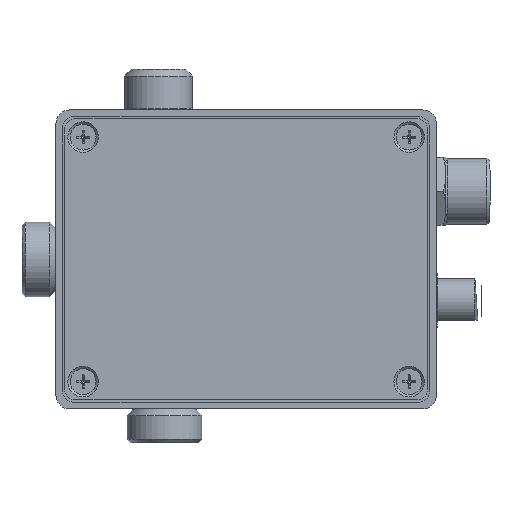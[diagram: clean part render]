
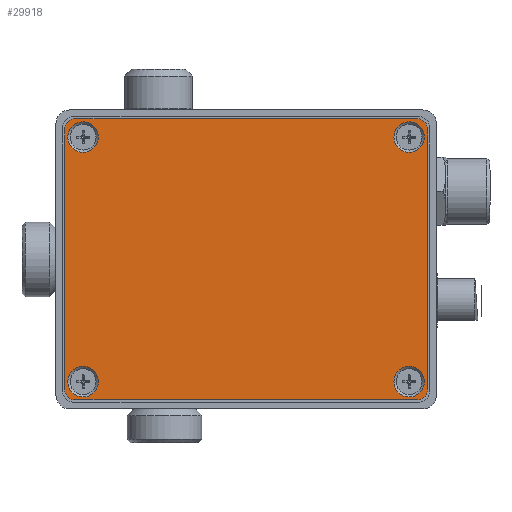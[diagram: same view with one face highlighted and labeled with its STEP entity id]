
A CAD part, front view. The second image highlights one B-rep face of the part: STEP entity #29918.
In plain terms, the highlighted planar face has unit normal (0, -1, 0).
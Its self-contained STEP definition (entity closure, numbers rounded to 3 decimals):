
#3628=LINE('',#41059,#6213);
#3632=LINE('',#41071,#6217);
#3636=LINE('',#41083,#6221);
#3640=LINE('',#41094,#6225);
#6213=VECTOR('',#33795,10.);
#6217=VECTOR('',#33807,10.);
#6221=VECTOR('',#33819,10.);
#6225=VECTOR('',#33831,10.);
#8670=FACE_BOUND('',#10567,.T.);
#8671=FACE_BOUND('',#10568,.T.);
#8672=FACE_BOUND('',#10569,.T.);
#8673=FACE_BOUND('',#10570,.T.);
#8929=FACE_OUTER_BOUND('',#10566,.T.);
#10566=EDGE_LOOP('',(#20673,#20674,#20675,#20676,#20677,#20678,#20679,#20680));
#10567=EDGE_LOOP('',(#20681,#20682));
#10568=EDGE_LOOP('',(#20683,#20684));
#10569=EDGE_LOOP('',(#20685,#20686));
#10570=EDGE_LOOP('',(#20687,#20688));
#12335=CIRCLE('',#31647,2.25);
#12336=CIRCLE('',#31648,2.25);
#12339=CIRCLE('',#31652,2.25);
#12340=CIRCLE('',#31653,2.25);
#12341=CIRCLE('',#31655,2.25);
#12342=CIRCLE('',#31656,2.25);
#12345=CIRCLE('',#31660,2.25);
#12346=CIRCLE('',#31661,2.25);
#12347=CIRCLE('',#31663,1.5);
#12349=CIRCLE('',#31667,1.5);
#12351=CIRCLE('',#31671,1.5);
#12353=CIRCLE('',#31675,1.5);
#13050=VERTEX_POINT('',#41017);
#13051=VERTEX_POINT('',#41018);
#13054=VERTEX_POINT('',#41027);
#13055=VERTEX_POINT('',#41028);
#13056=VERTEX_POINT('',#41033);
#13057=VERTEX_POINT('',#41034);
#13060=VERTEX_POINT('',#41043);
#13061=VERTEX_POINT('',#41044);
#13062=VERTEX_POINT('',#41049);
#13063=VERTEX_POINT('',#41050);
#13066=VERTEX_POINT('',#41058);
#13068=VERTEX_POINT('',#41064);
#13070=VERTEX_POINT('',#41070);
#13072=VERTEX_POINT('',#41076);
#13074=VERTEX_POINT('',#41082);
#13076=VERTEX_POINT('',#41088);
#16024=EDGE_CURVE('',#13050,#13051,#12335,.T.);
#16025=EDGE_CURVE('',#13051,#13050,#12336,.T.);
#16029=EDGE_CURVE('',#13054,#13055,#12339,.T.);
#16030=EDGE_CURVE('',#13055,#13054,#12340,.T.);
#16032=EDGE_CURVE('',#13056,#13057,#12341,.T.);
#16033=EDGE_CURVE('',#13057,#13056,#12342,.T.);
#16037=EDGE_CURVE('',#13060,#13061,#12345,.T.);
#16038=EDGE_CURVE('',#13061,#13060,#12346,.T.);
#16040=EDGE_CURVE('',#13062,#13063,#12347,.T.);
#16044=EDGE_CURVE('',#13063,#13066,#3628,.T.);
#16047=EDGE_CURVE('',#13066,#13068,#12349,.T.);
#16050=EDGE_CURVE('',#13068,#13070,#3632,.T.);
#16053=EDGE_CURVE('',#13070,#13072,#12351,.T.);
#16056=EDGE_CURVE('',#13072,#13074,#3636,.T.);
#16059=EDGE_CURVE('',#13074,#13076,#12353,.T.);
#16062=EDGE_CURVE('',#13076,#13062,#3640,.T.);
#20673=ORIENTED_EDGE('',*,*,#16062,.T.);
#20674=ORIENTED_EDGE('',*,*,#16040,.T.);
#20675=ORIENTED_EDGE('',*,*,#16044,.T.);
#20676=ORIENTED_EDGE('',*,*,#16047,.T.);
#20677=ORIENTED_EDGE('',*,*,#16050,.T.);
#20678=ORIENTED_EDGE('',*,*,#16053,.T.);
#20679=ORIENTED_EDGE('',*,*,#16056,.T.);
#20680=ORIENTED_EDGE('',*,*,#16059,.T.);
#20681=ORIENTED_EDGE('',*,*,#16024,.T.);
#20682=ORIENTED_EDGE('',*,*,#16025,.T.);
#20683=ORIENTED_EDGE('',*,*,#16029,.T.);
#20684=ORIENTED_EDGE('',*,*,#16030,.T.);
#20685=ORIENTED_EDGE('',*,*,#16032,.T.);
#20686=ORIENTED_EDGE('',*,*,#16033,.T.);
#20687=ORIENTED_EDGE('',*,*,#16037,.T.);
#20688=ORIENTED_EDGE('',*,*,#16038,.T.);
#28895=PLANE('',#31678);
#29918=ADVANCED_FACE('',(#8929,#8670,#8671,#8672,#8673),#28895,.T.);
#31647=AXIS2_PLACEMENT_3D('',#41019,#33751,#33752);
#31648=AXIS2_PLACEMENT_3D('',#41020,#33753,#33754);
#31652=AXIS2_PLACEMENT_3D('',#41029,#33762,#33763);
#31653=AXIS2_PLACEMENT_3D('',#41030,#33764,#33765);
#31655=AXIS2_PLACEMENT_3D('',#41035,#33769,#33770);
#31656=AXIS2_PLACEMENT_3D('',#41036,#33771,#33772);
#31660=AXIS2_PLACEMENT_3D('',#41045,#33780,#33781);
#31661=AXIS2_PLACEMENT_3D('',#41046,#33782,#33783);
#31663=AXIS2_PLACEMENT_3D('',#41051,#33787,#33788);
#31667=AXIS2_PLACEMENT_3D('',#41065,#33800,#33801);
#31671=AXIS2_PLACEMENT_3D('',#41077,#33812,#33813);
#31675=AXIS2_PLACEMENT_3D('',#41089,#33824,#33825);
#31678=AXIS2_PLACEMENT_3D('',#41096,#33833,#33834);
#33751=DIRECTION('center_axis',(0.,1.,0.));
#33752=DIRECTION('ref_axis',(0.,0.,
1.));
#33753=DIRECTION('center_axis',(0.,1.,0.));
#33754=DIRECTION('ref_axis',(0.,0.,
1.));
#33762=DIRECTION('center_axis',(0.,1.,0.));
#33763=DIRECTION('ref_axis',(0.,0.,
1.));
#33764=DIRECTION('center_axis',(0.,1.,0.));
#33765=DIRECTION('ref_axis',(0.,0.,
1.));
#33769=DIRECTION('center_axis',(0.,1.,0.));
#33770=DIRECTION('ref_axis',(0.,0.,
1.));
#33771=DIRECTION('center_axis',(0.,1.,0.));
#33772=DIRECTION('ref_axis',(0.,0.,
1.));
#33780=DIRECTION('center_axis',(0.,1.,0.));
#33781=DIRECTION('ref_axis',(0.,0.,
1.));
#33782=DIRECTION('center_axis',(0.,1.,0.));
#33783=DIRECTION('ref_axis',(0.,0.,
1.));
#33787=DIRECTION('center_axis',(0.,-1.,0.));
#33788=DIRECTION('ref_axis',(0.,0.,
-1.));
#33795=DIRECTION('',(-1.,0.,0.));
#33800=DIRECTION('center_axis',(0.,-1.,0.));
#33801=DIRECTION('ref_axis',(1.,0.,0.));
#33807=DIRECTION('',(0.,0.,-1.));
#33812=DIRECTION('center_axis',(0.,-1.,0.));
#33813=DIRECTION('ref_axis',(0.,0.,
1.));
#33819=DIRECTION('',(1.,0.,0.));
#33824=DIRECTION('center_axis',(0.,-1.,0.));
#33825=DIRECTION('ref_axis',(-1.,0.,0.));
#33831=DIRECTION('',(0.,0.,1.));
#33833=DIRECTION('center_axis',(0.,-1.,0.));
#33834=DIRECTION('ref_axis',(1.,0.,0.));
#41017=CARTESIAN_POINT('',(-11.163,-37.913,9.013));
#41018=CARTESIAN_POINT('',(-11.163,-37.913,4.513));
#41019=CARTESIAN_POINT('Origin',(-11.163,-37.913,6.763));
#41020=CARTESIAN_POINT('Origin',(-11.163,-37.913,6.763));
#41027=CARTESIAN_POINT('',(-11.163,-37.913,45.013));
#41028=CARTESIAN_POINT('',(-11.163,-37.913,40.513));
#41029=CARTESIAN_POINT('Origin',(-11.163,-37.913,42.763));
#41030=CARTESIAN_POINT('Origin',(-11.163,-37.913,42.763));
#41033=CARTESIAN_POINT('',(36.837,-37.913,9.013));
#41034=CARTESIAN_POINT('',(36.837,-37.913,4.513));
#41035=CARTESIAN_POINT('Origin',(36.837,-37.913,6.763));
#41036=CARTESIAN_POINT('Origin',(36.837,-37.913,6.763));
#41043=CARTESIAN_POINT('',(36.837,-37.913,45.013));
#41044=CARTESIAN_POINT('',(36.837,-37.913,40.513));
#41045=CARTESIAN_POINT('Origin',(36.837,-37.913,42.763));
#41046=CARTESIAN_POINT('Origin',(36.837,-37.913,42.763));
#41049=CARTESIAN_POINT('',(39.537,-37.913,43.963));
#41050=CARTESIAN_POINT('',(38.037,-37.913,45.463));
#41051=CARTESIAN_POINT('Origin',(38.037,-37.913,43.963));
#41058=CARTESIAN_POINT('',(-12.363,-37.913,45.463));
#41059=CARTESIAN_POINT('',(38.037,-37.913,45.463));
#41064=CARTESIAN_POINT('',(-13.863,-37.913,43.963));
#41065=CARTESIAN_POINT('Origin',(-12.363,-37.913,43.963));
#41070=CARTESIAN_POINT('',(-13.863,-37.913,5.563));
#41071=CARTESIAN_POINT('',(-13.863,-37.913,43.963));
#41076=CARTESIAN_POINT('',(-12.363,-37.913,4.063));
#41077=CARTESIAN_POINT('Origin',(-12.363,-37.913,5.563));
#41082=CARTESIAN_POINT('',(38.037,-37.913,4.063));
#41083=CARTESIAN_POINT('',(-12.363,-37.913,4.063));
#41088=CARTESIAN_POINT('',(39.537,-37.913,5.563));
#41089=CARTESIAN_POINT('Origin',(38.037,-37.913,5.563));
#41094=CARTESIAN_POINT('',(39.537,-37.913,5.563));
#41096=CARTESIAN_POINT('Origin',(12.837,-37.913,24.763));
